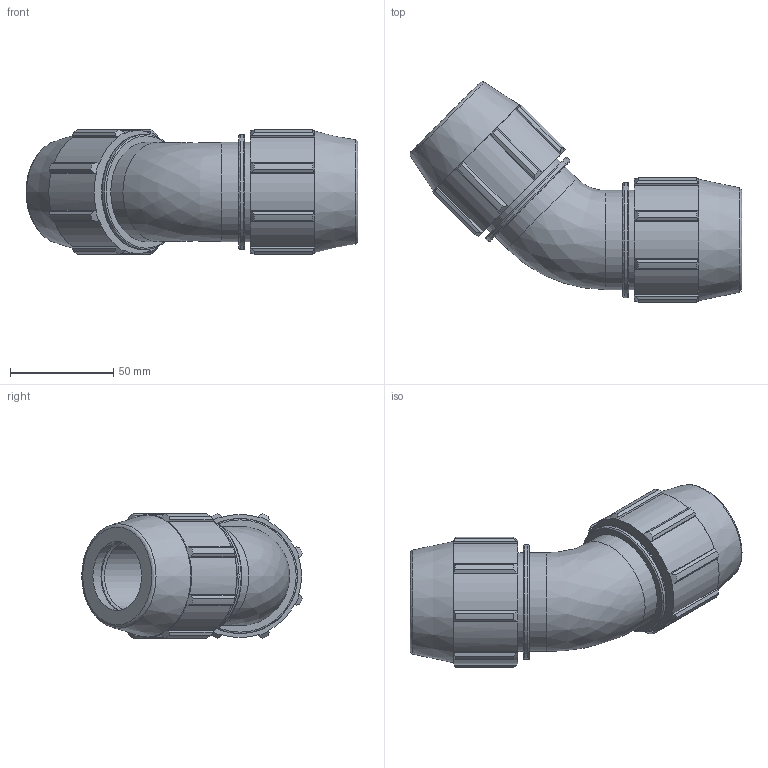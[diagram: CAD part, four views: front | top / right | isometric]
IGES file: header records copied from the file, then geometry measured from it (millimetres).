
Global section: file name: 0706M0010.ipt; native system: Autodesk Inventor 2019; preprocessor: unknown; author: KIM; date: 20210826.124623; units: inch
Bounding box: 160.71 x 106.75 x 60.23 mm (x, y, z)
Volume: 245672.7 mm3; surface area: 54358.3 mm2
Topology: 1 solids, 1 shells, 146 faces, 417 edges, 281 vertices
Faces by surface type: plane 74, cylinder 38, cone 20, revolution 14
Full cylindrical faces by diameter (mm): 48.006 x4, 55.687 x2
